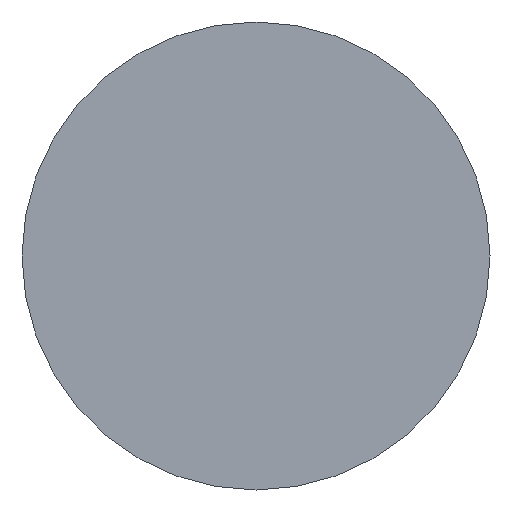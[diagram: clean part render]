
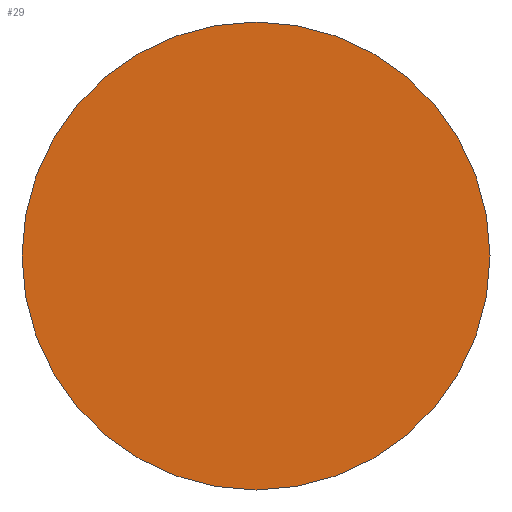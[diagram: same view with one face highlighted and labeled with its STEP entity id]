
A CAD part, left-side view. The second image highlights one B-rep face of the part: STEP entity #29.
In plain terms, the highlighted planar face has unit normal (-1, 0, 0).
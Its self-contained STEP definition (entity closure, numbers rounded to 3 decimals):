
#18 = CARTESIAN_POINT ( 'NONE',  ( 0., 0., 0. ) ) ;
#19 = DIRECTION ( 'NONE',  ( 1., 0., 0. ) ) ;
#20 = PLANE ( 'NONE',  #246 ) ;
#21 = DIRECTION ( 'NONE',  ( 0., 1., 0. ) ) ;
#27 = EDGE_CURVE ( 'NONE', #28, #267, #171, .T. ) ;
#28 = VERTEX_POINT ( 'NONE', #212 ) ;
#29 = ADVANCED_FACE ( 'NONE', ( #195 ), #20, .T. ) ;
#50 = DIRECTION ( 'NONE',  ( 0., -1., 0. ) ) ;
#93 = AXIS2_PLACEMENT_3D ( 'NONE', #18, #19, #21 ) ;
#94 = CARTESIAN_POINT ( 'NONE',  ( 0., -6., 0. ) ) ;
#115 = DIRECTION ( 'NONE',  ( 1., 0., 0. ) ) ;
#126 = DIRECTION ( 'NONE',  ( -1., 0., 0. ) ) ;
#159 = EDGE_CURVE ( 'NONE', #267, #28, #225, .T. ) ;
#167 = DIRECTION ( 'NONE',  ( 0., 1., 0. ) ) ;
#171 = CIRCLE ( 'NONE', #236, 6. ) ;
#172 = EDGE_LOOP ( 'NONE', ( #233, #223 ) ) ;
#193 = CARTESIAN_POINT ( 'NONE',  ( 0., 0., 0. ) ) ;
#195 = FACE_OUTER_BOUND ( 'NONE', #172, .T. ) ;
#212 = CARTESIAN_POINT ( 'NONE',  ( 0., 6., 0. ) ) ;
#223 = ORIENTED_EDGE ( 'NONE', *, *, #159, .F. ) ;
#225 = CIRCLE ( 'NONE', #93, 6. ) ;
#233 = ORIENTED_EDGE ( 'NONE', *, *, #27, .F. ) ;
#236 = AXIS2_PLACEMENT_3D ( 'NONE', #193, #115, #167 ) ;
#246 = AXIS2_PLACEMENT_3D ( 'NONE', #269, #126, #50 ) ;
#267 = VERTEX_POINT ( 'NONE', #94 ) ;
#269 = CARTESIAN_POINT ( 'NONE',  ( 0., 0., 0. ) ) ;
